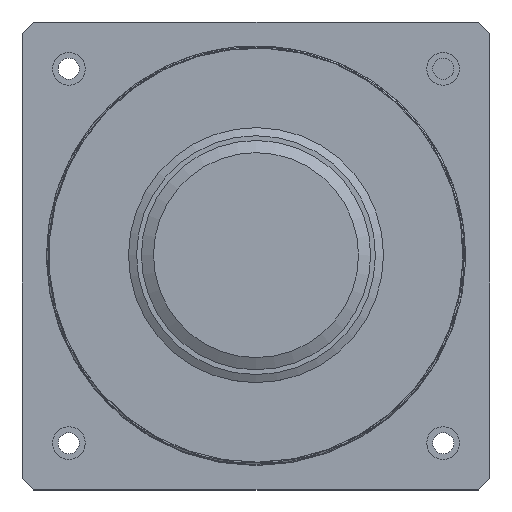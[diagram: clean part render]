
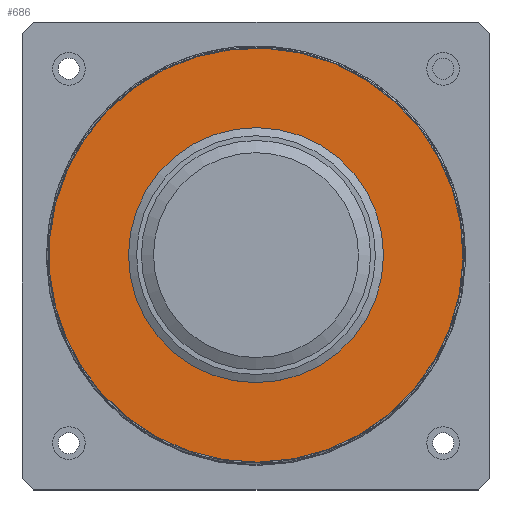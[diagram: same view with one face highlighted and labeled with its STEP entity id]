
A CAD part, top view. The second image highlights one B-rep face of the part: STEP entity #686.
In plain terms, the highlighted planar face has unit normal (0, 0, 1).
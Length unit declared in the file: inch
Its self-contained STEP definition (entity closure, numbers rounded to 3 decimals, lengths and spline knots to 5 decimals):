
#84=PLANE('',#795);
#191=FACE_BOUND('',#330,.T.);
#240=FACE_OUTER_BOUND('',#329,.T.);
#329=EDGE_LOOP('',(#627));
#330=EDGE_LOOP('',(#628));
#344=CIRCLE('',#720,1.72456);
#379=CIRCLE('',#796,3.48425);
#386=VERTEX_POINT('',#1025);
#437=VERTEX_POINT('',#1176);
#444=EDGE_CURVE('',#386,#386,#344,.T.);
#503=EDGE_CURVE('',#437,#437,#379,.T.);
#627=ORIENTED_EDGE('',*,*,#503,.T.);
#628=ORIENTED_EDGE('',*,*,#444,.T.);
#686=ADVANCED_FACE('',(#240,#191),#84,.T.);
#720=AXIS2_PLACEMENT_3D('',#1026,#822,#823);
#795=AXIS2_PLACEMENT_3D('',#1175,#996,#997);
#796=AXIS2_PLACEMENT_3D('',#1177,#998,#999);
#822=DIRECTION('center_axis',(0.,0.,
-1.));
#823=DIRECTION('ref_axis',(-1.,0.,0.));
#996=DIRECTION('center_axis',(0.,0.,
1.));
#997=DIRECTION('ref_axis',(-0.966,-0.259,0.));
#998=DIRECTION('center_axis',(0.,0.,
1.));
#999=DIRECTION('ref_axis',(0.966,0.259,0.));
#1025=CARTESIAN_POINT('',(-16.14232,16.43493,13.001));
#1026=CARTESIAN_POINT('Origin',(-17.86688,16.43493,13.001));
#1175=CARTESIAN_POINT('Origin',(-17.86684,16.43493,13.001));
#1176=CARTESIAN_POINT('',(-21.23237,15.53314,13.001));
#1177=CARTESIAN_POINT('Origin',(-17.86684,16.43493,13.001));
